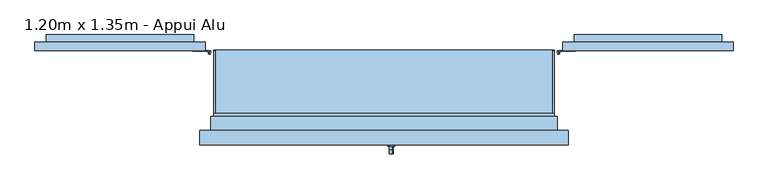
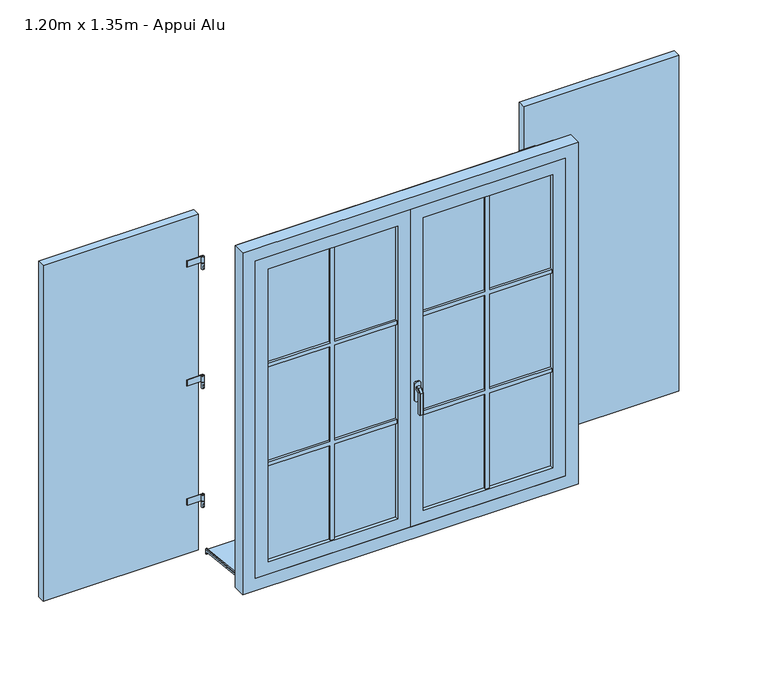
"""IFC4 building model written with IfcOpenShell, lengths in millimetres: window geometry, 2 Vantaux droits - Volets et petits bois : 1.20m x 1.35m - Appui Alu."""

from ifc_helpers import new_model, si_unit, point, frame, frame_2d, origin, place, context, project, spatial, polyline, circle_curve, trimmed, segment, composite_curve, outline, extrude, faceted_brep, source, transform, mapped, element, save
from ifc_brep_helpers import plane_surface, cylinder_surface, advanced_brep


def window_1_20m_x_1_35m_appui_alu_f21a0c15(model_context):
    return source(origin(), model_context, "Body", "SolidModel", [
        extrude(outline(polyline([(-1230.0, 173.0), (-1230.0, 203.0), (-630.0, 203.0), (-630.0, 173.0), (-1230.0, 173.0)])), frame((0.0, 0.0, 775.0), z_axis=(0.0, 0.0, 1.0), x_axis=(1.0, 0.0, 0.0)), (0.0, 0.0, 1.0), 1375.0),
        advanced_brep(
        [(-610.0, 168.0, 975.0), (-620.0, 168.0, 975.0), (-610.0, 168.0, 950.0), (-620.0, 168.0, 950.0), (-617.0, 163.4174243, 955.0), (-617.0, 163.4174243, 965.0), (-613.0, 163.4174243, 965.0), (-613.0, 163.4174243, 955.0), (-613.0, 160.0, 965.0), (-617.0, 160.0, 965.0), (-617.0, 160.0, 955.0), (-613.0, 160.0, 955.0)],
        [
            (0, 1, circle_curve(frame((-615.0, 168.0, 975.0), z_axis=(0.0, 0.0, 1.0), x_axis=(-1.0, 0.0, 0.0)), 5.0)),
            (1, 0, circle_curve(frame((-615.0, 168.0, 975.0), z_axis=(0.0, 0.0, 1.0), x_axis=(-1.0, 0.0, 0.0)), 5.0)),
            (2, 3, circle_curve(frame((-615.0, 168.0, 950.0), z_axis=(0.0, 0.0, -1.0), x_axis=(-1.0, 0.0, 0.0)), 5.0)),
            (3, 2, circle_curve(frame((-615.0, 168.0, 950.0), z_axis=(0.0, 0.0, -1.0), x_axis=(-1.0, 0.0, 0.0)), 5.0)),
            (1, 3),
            (2, 0),
            (4, 5),
            (5, 6, circle_curve(frame((-615.0, 168.0, 965.0), z_axis=(0.0, 0.0, 1.0), x_axis=(-1.0, 0.0, 0.0)), 5.0)),
            (6, 7),
            (7, 4, circle_curve(frame((-615.0, 168.0, 955.0), z_axis=(0.0, 0.0, -1.0), x_axis=(-1.0, 0.0, 0.0)), 5.0)),
            (8, 6),
            (5, 9),
            (9, 8),
            (10, 4),
            (7, 11),
            (11, 10),
            (10, 9),
            (8, 11),
        ],
        [
            plane_surface(frame((-620.0, 168.0, 975.0), z_axis=(0.0, 0.0, 1.0), x_axis=(0.0, 1.0, 0.0))),
            plane_surface(frame((-620.0, 168.0, 950.0), z_axis=(0.0, 0.0, -1.0), x_axis=(0.0, -1.0, 0.0))),
            cylinder_surface(frame((-615.0, 168.0, 950.0), z_axis=(0.0, 0.0, 1.0), x_axis=(-1.0, 0.0, 0.0)), 5.0),
            plane_surface(frame((-617.0, 160.0, 965.0), z_axis=(0.0, 0.0, 1.0), x_axis=(0.0, 1.0, 0.0))),
            plane_surface(frame((-617.0, 160.0, 955.0), z_axis=(0.0, 0.0, -1.0), x_axis=(0.0, -1.0, 0.0))),
            plane_surface(frame((-617.0, 160.0, 965.0), z_axis=(-1.0, 0.0, 0.0), x_axis=(0.0, 0.0, -1.0))),
            plane_surface(frame((-613.0, 165.0, 965.0), z_axis=(1.0, 0.0, 0.0), x_axis=(0.0, 0.0, -1.0))),
            plane_surface(frame((-613.0, 160.0, 965.0), z_axis=(0.0, -1.0, 0.0), x_axis=(0.0, 0.0, -1.0))),
        ],
        [
            (0, [[1, 2]]),
            (1, [[3, 4]]),
            (2, [[5, -3, 6, -2], [7, 8, 9, 10]]),
            (2, [[-6, -4, -5, -1]]),
            (3, [[11, -8, 12, 13]]),
            (4, [[14, -10, 15, 16]]),
            (5, [[-12, -7, -14, 17]]),
            (6, [[-15, -9, -11, 18]]),
            (7, [[-17, -16, -18, -13]]),
        ],
    ),
        extrude(outline(composite_curve([segment(trimmed(circle_curve(frame_2d((-615.0, 168.0)), 5.0), [point((-615.0, 173.0))], [point((-620.0, 168.0))], False, "CARTESIAN"), True, "CONTINUOUS"), segment(polyline([(-620.0, 168.0), (-617.5, 168.0)]), True, "CONTINUOUS"), segment(trimmed(circle_curve(frame_2d((-615.0, 168.0)), 2.5), [point((-617.5, 168.0))], [point((-615.0, 170.5))], True, "CARTESIAN"), True, "CONTINUOUS"), segment(polyline([(-615.0, 170.5), (-674.3092325, 170.5), (-674.3092325, 173.0), (-615.0, 173.0)]), True, "CONTINUOUS")], self_intersect=False)), frame((0.0, 0.0, 975.0), z_axis=(0.0, 0.0, 1.0), x_axis=(1.0, 0.0, 0.0)), (0.0, 0.0, 1.0), 25.0),
        extrude(outline(composite_curve([segment(trimmed(circle_curve(frame_2d((-615.0, 168.0)), 2.5), [point((-612.5, 168.0))], [point((-617.5, 168.0))], False, "CARTESIAN"), True, "CONTINUOUS"), segment(trimmed(circle_curve(frame_2d((-615.0, 168.0)), 2.5), [point((-617.5, 168.0))], [point((-612.5, 168.0))], False, "CARTESIAN"), True, "CONTINUOUS")], self_intersect=False)), frame((0.0, 0.0, 975.0), z_axis=(0.0, 0.0, 1.0), x_axis=(1.0, 0.0, 0.0)), (0.0, 0.0, 1.0), 25.0),
        advanced_brep(
        [(-610.0, 168.0, 1950.0), (-620.0, 168.0, 1950.0), (-610.0, 168.0, 1925.0), (-620.0, 168.0, 1925.0), (-613.0, 163.4174243, 1940.0), (-613.0, 163.4174243, 1930.0), (-617.0, 163.4174243, 1930.0), (-617.0, 163.4174243, 1940.0), (-613.0, 160.0, 1940.0), (-617.0, 160.0, 1940.0), (-613.0, 160.0, 1930.0), (-617.0, 160.0, 1930.0)],
        [
            (0, 1, circle_curve(frame((-615.0, 168.0, 1950.0), z_axis=(0.0, 0.0, 1.0), x_axis=(-1.0, 0.0, 0.0)), 5.0)),
            (1, 0, circle_curve(frame((-615.0, 168.0, 1950.0), z_axis=(0.0, 0.0, 1.0), x_axis=(-1.0, 0.0, 0.0)), 5.0)),
            (2, 3, circle_curve(frame((-615.0, 168.0, 1925.0), z_axis=(0.0, 0.0, -1.0), x_axis=(-1.0, 0.0, 0.0)), 5.0)),
            (3, 2, circle_curve(frame((-615.0, 168.0, 1925.0), z_axis=(0.0, 0.0, -1.0), x_axis=(-1.0, 0.0, 0.0)), 5.0)),
            (1, 3),
            (2, 0),
            (4, 5),
            (5, 6, circle_curve(frame((-615.0, 168.0, 1930.0), z_axis=(0.0, 0.0, -1.0), x_axis=(-1.0, 0.0, 0.0)), 5.0)),
            (6, 7),
            (7, 4, circle_curve(frame((-615.0, 168.0, 1940.0), z_axis=(0.0, 0.0, 1.0), x_axis=(-1.0, 0.0, 0.0)), 5.0)),
            (8, 4),
            (7, 9),
            (9, 8),
            (10, 11),
            (11, 6),
            (5, 10),
            (9, 11),
            (10, 8),
        ],
        [
            plane_surface(frame((-620.0, 168.0, 1950.0), z_axis=(0.0, 0.0, 1.0), x_axis=(0.0, 1.0, 0.0))),
            plane_surface(frame((-620.0, 168.0, 1925.0), z_axis=(0.0, 0.0, -1.0), x_axis=(0.0, -1.0, 0.0))),
            cylinder_surface(frame((-615.0, 168.0, 1925.0), z_axis=(0.0, 0.0, 1.0), x_axis=(-1.0, 0.0, 0.0)), 5.0),
            plane_surface(frame((-613.0, 160.0, 1940.0), z_axis=(0.0, 0.0, 1.0), x_axis=(-1.0, 0.0, 0.0))),
            plane_surface(frame((-613.0, 160.0, 1930.0), z_axis=(0.0, 0.0, -1.0), x_axis=(1.0, 0.0, 0.0))),
            plane_surface(frame((-613.0, 160.0, 1940.0), z_axis=(0.0, -1.0, 0.0), x_axis=(0.0, 0.0, -1.0))),
            plane_surface(frame((-617.0, 160.0, 1940.0), z_axis=(-1.0, 0.0, 0.0), x_axis=(0.0, 0.0, -1.0))),
            plane_surface(frame((-613.0, 163.4174243, 1940.0), z_axis=(1.0, 0.0, 0.0), x_axis=(0.0, 0.0, -1.0))),
        ],
        [
            (0, [[1, 2]]),
            (1, [[3, 4]]),
            (2, [[5, -3, 6, -2], [7, 8, 9, 10]]),
            (2, [[-6, -4, -5, -1]]),
            (3, [[11, -10, 12, 13]]),
            (4, [[14, 15, -8, 16]]),
            (5, [[17, -14, 18, -13]]),
            (6, [[-9, -15, -17, -12]]),
            (7, [[-18, -16, -7, -11]]),
        ],
    ),
        extrude(outline(polyline([(-613.0, 160.0), (-617.0, 160.0), (-617.0, 163.4174243), (-613.0, 163.4174243), (-613.0, 160.0)])), frame((0.0, 0.0, 1442.5), z_axis=(0.0, 0.0, 1.0), x_axis=(1.0, 0.0, 0.0)), (0.0, 0.0, 1.0), 10.0),
        extrude(outline(composite_curve([segment(trimmed(circle_curve(frame_2d((-615.0, 168.0)), 5.0), [point((-615.0, 173.0))], [point((-620.0, 168.0))], False, "CARTESIAN"), True, "CONTINUOUS"), segment(polyline([(-620.0, 168.0), (-617.5, 168.0)]), True, "CONTINUOUS"), segment(trimmed(circle_curve(frame_2d((-615.0, 168.0)), 2.5), [point((-617.5, 168.0))], [point((-612.5, 168.0))], True, "CARTESIAN"), True, "CONTINUOUS"), segment(trimmed(circle_curve(frame_2d((-615.0, 168.0)), 2.5), [point((-612.5, 168.0))], [point((-615.0, 170.5))], True, "CARTESIAN"), True, "CONTINUOUS"), segment(polyline([(-615.0, 170.5), (-674.3092325, 170.5), (-674.3092325, 173.0), (-615.0, 173.0)]), True, "CONTINUOUS")], self_intersect=False)), frame((0.0, 0.0, 1462.5), z_axis=(0.0, 0.0, 1.0), x_axis=(1.0, 0.0, 0.0)), (0.0, 0.0, 1.0), 25.0),
        extrude(outline(composite_curve([segment(trimmed(circle_curve(frame_2d((-615.0, 168.0)), 2.5), [point((-612.5, 168.0))], [point((-617.5, 168.0))], False, "CARTESIAN"), True, "CONTINUOUS"), segment(trimmed(circle_curve(frame_2d((-615.0, 168.0)), 2.5), [point((-617.5, 168.0))], [point((-612.5, 168.0))], False, "CARTESIAN"), True, "CONTINUOUS")], self_intersect=False)), frame((0.0, 0.0, 1462.5), z_axis=(0.0, 0.0, 1.0), x_axis=(1.0, 0.0, 0.0)), (0.0, 0.0, 1.0), 25.0),
        extrude(outline(composite_curve([segment(trimmed(circle_curve(frame_2d((-615.0, 168.0)), 5.0), [point((-610.0, 168.0))], [point((-620.0, 168.0))], False, "CARTESIAN"), True, "CONTINUOUS"), segment(trimmed(circle_curve(frame_2d((-615.0, 168.0)), 5.0), [point((-620.0, 168.0))], [point((-610.0, 168.0))], False, "CARTESIAN"), True, "CONTINUOUS")], self_intersect=False)), frame((0.0, 0.0, 1437.5), z_axis=(0.0, 0.0, 1.0), x_axis=(1.0, 0.0, 0.0)), (0.0, 0.0, 1.0), 25.0),
        extrude(outline(composite_curve([segment(trimmed(circle_curve(frame_2d((-615.0, 168.0)), 5.0), [point((-615.0, 173.0))], [point((-620.0, 168.0))], False, "CARTESIAN"), True, "CONTINUOUS"), segment(polyline([(-620.0, 168.0), (-617.5, 168.0)]), True, "CONTINUOUS"), segment(trimmed(circle_curve(frame_2d((-615.0, 168.0)), 2.5), [point((-617.5, 168.0))], [point((-615.0, 170.5))], True, "CARTESIAN"), True, "CONTINUOUS"), segment(polyline([(-615.0, 170.5), (-674.3092325, 170.5), (-674.3092325, 173.0), (-615.0, 173.0)]), True, "CONTINUOUS")], self_intersect=False)), frame((0.0, 0.0, 1950.0), z_axis=(0.0, 0.0, 1.0), x_axis=(1.0, 0.0, 0.0)), (0.0, 0.0, 1.0), 25.0),
        extrude(outline(composite_curve([segment(trimmed(circle_curve(frame_2d((-615.0, 168.0)), 2.5), [point((-612.5, 168.0))], [point((-617.5, 168.0))], False, "CARTESIAN"), True, "CONTINUOUS"), segment(trimmed(circle_curve(frame_2d((-615.0, 168.0)), 2.5), [point((-617.5, 168.0))], [point((-612.5, 168.0))], False, "CARTESIAN"), True, "CONTINUOUS")], self_intersect=False)), frame((0.0, 0.0, 1950.0), z_axis=(0.0, 0.0, 1.0), x_axis=(1.0, 0.0, 0.0)), (0.0, 0.0, 1.0), 25.0),
        extrude(outline(polyline([(1910.0, -1190.0), (1015.0, -758.801371), (1015.0, -670.0007252), (1910.0, -1101.1993542), (1910.0, -1190.0)])), frame((0.0, 203.0, 0.0), z_axis=(0.0, 1.0, 0.0), x_axis=(0.0, 0.0, 1.0)), (0.0, 0.0, 1.0), 25.0),
        extrude(outline(polyline([(-670.0, 228.0), (-670.0, 203.0), (-1190.0, 203.0), (-1190.0, 228.0), (-670.0, 228.0)])), frame((0.0, 0.0, 1910.0), z_axis=(0.0, 0.0, 1.0), x_axis=(1.0, 0.0, 0.0)), (0.0, 0.0, 1.0), 80.0),
        extrude(outline(polyline([(-670.0, 228.0), (-670.0, 203.0), (-1190.0, 203.0), (-1190.0, 228.0), (-670.0, 228.0)])), frame((0.0, 0.0, 935.0), z_axis=(0.0, 0.0, 1.0), x_axis=(1.0, 0.0, 0.0)), (0.0, 0.0, 1.0), 80.0),
        extrude(outline(polyline([(1230.0, 173.0), (630.0, 173.0), (630.0, 203.0), (1230.0, 203.0), (1230.0, 173.0)])), frame((0.0, 0.0, 775.0), z_axis=(0.0, 0.0, 1.0), x_axis=(1.0, 0.0, 0.0)), (0.0, 0.0, 1.0), 1375.0),
        advanced_brep(
        [(610.0, 168.0, 975.0), (620.0, 168.0, 975.0), (610.0, 168.0, 950.0), (620.0, 168.0, 950.0), (617.0, 163.4174243, 955.0), (613.0, 163.4174243, 955.0), (613.0, 163.4174243, 965.0), (617.0, 163.4174243, 965.0), (613.0, 160.0, 965.0), (617.0, 160.0, 965.0), (617.0, 160.0, 955.0), (613.0, 160.0, 955.0)],
        [
            (0, 1, circle_curve(frame((615.0, 168.0, 975.0), z_axis=(0.0, 0.0, 1.0), x_axis=(1.0, 0.0, 0.0)), 5.0)),
            (1, 0, circle_curve(frame((615.0, 168.0, 975.0), z_axis=(0.0, 0.0, 1.0), x_axis=(1.0, 0.0, 0.0)), 5.0)),
            (2, 3, circle_curve(frame((615.0, 168.0, 950.0), z_axis=(0.0, 0.0, -1.0), x_axis=(1.0, 0.0, 0.0)), 5.0)),
            (3, 2, circle_curve(frame((615.0, 168.0, 950.0), z_axis=(0.0, 0.0, -1.0), x_axis=(1.0, 0.0, 0.0)), 5.0)),
            (0, 2),
            (3, 1),
            (4, 5, circle_curve(frame((615.0, 168.0, 955.0), z_axis=(0.0, 0.0, -1.0), x_axis=(1.0, 0.0, 0.0)), 5.0)),
            (5, 6),
            (6, 7, circle_curve(frame((615.0, 168.0, 965.0), z_axis=(0.0, 0.0, 1.0), x_axis=(1.0, 0.0, 0.0)), 5.0)),
            (7, 4),
            (8, 9),
            (9, 7),
            (6, 8),
            (10, 11),
            (11, 5),
            (4, 10),
            (9, 10),
            (11, 8),
        ],
        [
            plane_surface(frame((620.0, 168.0, 975.0), z_axis=(0.0, 0.0, 1.0), x_axis=(0.0, 1.0, 0.0))),
            plane_surface(frame((620.0, 168.0, 950.0), z_axis=(0.0, 0.0, -1.0), x_axis=(0.0, -1.0, 0.0))),
            cylinder_surface(frame((615.0, 168.0, 950.0), z_axis=(0.0, 0.0, 1.0), x_axis=(1.0, 0.0, 0.0)), 5.0),
            plane_surface(frame((617.0, 160.0, 965.0), z_axis=(0.0, 0.0, 1.0), x_axis=(0.0, 1.0, 0.0))),
            plane_surface(frame((617.0, 160.0, 955.0), z_axis=(0.0, 0.0, -1.0), x_axis=(0.0, -1.0, 0.0))),
            plane_surface(frame((617.0, 160.0, 965.0), z_axis=(1.0, 0.0, 0.0), x_axis=(0.0, 0.0, -1.0))),
            plane_surface(frame((613.0, 165.0, 965.0), z_axis=(-1.0, 0.0, 0.0), x_axis=(0.0, 0.0, -1.0))),
            plane_surface(frame((613.0, 160.0, 965.0), z_axis=(0.0, -1.0, 0.0), x_axis=(0.0, 0.0, -1.0))),
        ],
        [
            (0, [[1, 2]]),
            (1, [[3, 4]]),
            (2, [[-1, 5, -4, 6], [7, 8, 9, 10]]),
            (2, [[-2, -6, -3, -5]]),
            (3, [[11, 12, -9, 13]]),
            (4, [[14, 15, -7, 16]]),
            (5, [[17, -16, -10, -12]]),
            (6, [[18, -13, -8, -15]]),
            (7, [[-11, -18, -14, -17]]),
        ],
    ),
        extrude(outline(composite_curve([segment(polyline([(615.0, 173.0), (674.3092325, 173.0), (674.3092325, 170.5), (615.0, 170.5)]), True, "CONTINUOUS"), segment(trimmed(circle_curve(frame_2d((615.0, 168.0)), 2.5), [point((615.0, 170.5))], [point((617.5, 168.0))], True, "CARTESIAN"), True, "CONTINUOUS"), segment(polyline([(617.5, 168.0), (620.0, 168.0)]), True, "CONTINUOUS"), segment(trimmed(circle_curve(frame_2d((615.0, 168.0)), 5.0), [point((620.0, 168.0))], [point((615.0, 173.0))], False, "CARTESIAN"), True, "CONTINUOUS")], self_intersect=False)), frame((0.0, 0.0, 975.0), z_axis=(0.0, 0.0, 1.0), x_axis=(1.0, 0.0, 0.0)), (0.0, 0.0, 1.0), 25.0),
        extrude(outline(composite_curve([segment(trimmed(circle_curve(frame_2d((615.0, 168.0)), 2.5), [point((612.5, 168.0))], [point((617.5, 168.0))], False, "CARTESIAN"), True, "CONTINUOUS"), segment(trimmed(circle_curve(frame_2d((615.0, 168.0)), 2.5), [point((617.5, 168.0))], [point((612.5, 168.0))], False, "CARTESIAN"), True, "CONTINUOUS")], self_intersect=False)), frame((0.0, 0.0, 975.0), z_axis=(0.0, 0.0, 1.0), x_axis=(1.0, 0.0, 0.0)), (0.0, 0.0, 1.0), 25.0),
        advanced_brep(
        [(610.0, 168.0, 1950.0), (620.0, 168.0, 1950.0), (610.0, 168.0, 1925.0), (620.0, 168.0, 1925.0), (613.0, 163.4174243, 1940.0), (617.0, 163.4174243, 1940.0), (617.0, 163.4174243, 1930.0), (613.0, 163.4174243, 1930.0), (613.0, 160.0, 1940.0), (617.0, 160.0, 1940.0), (613.0, 160.0, 1930.0), (617.0, 160.0, 1930.0)],
        [
            (0, 1, circle_curve(frame((615.0, 168.0, 1950.0), z_axis=(0.0, 0.0, 1.0), x_axis=(1.0, 0.0, 0.0)), 5.0)),
            (1, 0, circle_curve(frame((615.0, 168.0, 1950.0), z_axis=(0.0, 0.0, 1.0), x_axis=(1.0, 0.0, 0.0)), 5.0)),
            (2, 3, circle_curve(frame((615.0, 168.0, 1925.0), z_axis=(0.0, 0.0, -1.0), x_axis=(1.0, 0.0, 0.0)), 5.0)),
            (3, 2, circle_curve(frame((615.0, 168.0, 1925.0), z_axis=(0.0, 0.0, -1.0), x_axis=(1.0, 0.0, 0.0)), 5.0)),
            (0, 2),
            (3, 1),
            (4, 5, circle_curve(frame((615.0, 168.0, 1940.0), z_axis=(0.0, 0.0, 1.0), x_axis=(1.0, 0.0, 0.0)), 5.0)),
            (5, 6),
            (6, 7, circle_curve(frame((615.0, 168.0, 1930.0), z_axis=(0.0, 0.0, -1.0), x_axis=(1.0, 0.0, 0.0)), 5.0)),
            (7, 4),
            (8, 9),
            (9, 5),
            (4, 8),
            (10, 7),
            (6, 11),
            (11, 10),
            (8, 10),
            (11, 9),
        ],
        [
            plane_surface(frame((620.0, 168.0, 1950.0), z_axis=(0.0, 0.0, 1.0), x_axis=(0.0, 1.0, 0.0))),
            plane_surface(frame((620.0, 168.0, 1925.0), z_axis=(0.0, 0.0, -1.0), x_axis=(0.0, -1.0, 0.0))),
            cylinder_surface(frame((615.0, 168.0, 1925.0), z_axis=(0.0, 0.0, 1.0), x_axis=(1.0, 0.0, 0.0)), 5.0),
            plane_surface(frame((613.0, 160.0, 1940.0), z_axis=(0.0, 0.0, 1.0), x_axis=(1.0, 0.0, 0.0))),
            plane_surface(frame((613.0, 160.0, 1930.0), z_axis=(0.0, 0.0, -1.0), x_axis=(-1.0, 0.0, 0.0))),
            plane_surface(frame((613.0, 160.0, 1940.0), z_axis=(0.0, -1.0, 0.0), x_axis=(0.0, 0.0, -1.0))),
            plane_surface(frame((617.0, 160.0, 1940.0), z_axis=(1.0, 0.0, 0.0), x_axis=(0.0, 0.0, -1.0))),
            plane_surface(frame((613.0, 163.4174243, 1940.0), z_axis=(-1.0, 0.0, 0.0), x_axis=(0.0, 0.0, -1.0))),
        ],
        [
            (0, [[1, 2]]),
            (1, [[3, 4]]),
            (2, [[-1, 5, -4, 6], [7, 8, 9, 10]]),
            (2, [[-2, -6, -3, -5]]),
            (3, [[11, 12, -7, 13]]),
            (4, [[14, -9, 15, 16]]),
            (5, [[-11, 17, -16, 18]]),
            (6, [[-12, -18, -15, -8]]),
            (7, [[-13, -10, -14, -17]]),
        ],
    ),
        extrude(outline(polyline([(613.0, 160.0), (613.0, 163.4174243), (617.0, 163.4174243), (617.0, 160.0), (613.0, 160.0)])), frame((0.0, 0.0, 1442.5), z_axis=(0.0, 0.0, 1.0), x_axis=(1.0, 0.0, 0.0)), (0.0, 0.0, 1.0), 10.0),
        extrude(outline(composite_curve([segment(polyline([(615.0, 173.0), (674.3092325, 173.0), (674.3092325, 170.5), (615.0, 170.5)]), True, "CONTINUOUS"), segment(trimmed(circle_curve(frame_2d((615.0, 168.0)), 2.5), [point((615.0, 170.5))], [point((612.5, 168.0))], True, "CARTESIAN"), True, "CONTINUOUS"), segment(trimmed(circle_curve(frame_2d((615.0, 168.0)), 2.5), [point((612.5, 168.0))], [point((617.5, 168.0))], True, "CARTESIAN"), True, "CONTINUOUS"), segment(polyline([(617.5, 168.0), (620.0, 168.0)]), True, "CONTINUOUS"), segment(trimmed(circle_curve(frame_2d((615.0, 168.0)), 5.0), [point((620.0, 168.0))], [point((615.0, 173.0))], False, "CARTESIAN"), True, "CONTINUOUS")], self_intersect=False)), frame((0.0, 0.0, 1462.5), z_axis=(0.0, 0.0, 1.0), x_axis=(1.0, 0.0, 0.0)), (0.0, 0.0, 1.0), 25.0),
        extrude(outline(composite_curve([segment(trimmed(circle_curve(frame_2d((615.0, 168.0)), 2.5), [point((612.5, 168.0))], [point((617.5, 168.0))], False, "CARTESIAN"), True, "CONTINUOUS"), segment(trimmed(circle_curve(frame_2d((615.0, 168.0)), 2.5), [point((617.5, 168.0))], [point((612.5, 168.0))], False, "CARTESIAN"), True, "CONTINUOUS")], self_intersect=False)), frame((0.0, 0.0, 1462.5), z_axis=(0.0, 0.0, 1.0), x_axis=(1.0, 0.0, 0.0)), (0.0, 0.0, 1.0), 25.0),
        extrude(outline(composite_curve([segment(trimmed(circle_curve(frame_2d((615.0, 168.0)), 5.0), [point((610.0, 168.0))], [point((620.0, 168.0))], False, "CARTESIAN"), True, "CONTINUOUS"), segment(trimmed(circle_curve(frame_2d((615.0, 168.0)), 5.0), [point((620.0, 168.0))], [point((610.0, 168.0))], False, "CARTESIAN"), True, "CONTINUOUS")], self_intersect=False)), frame((0.0, 0.0, 1437.5), z_axis=(0.0, 0.0, 1.0), x_axis=(1.0, 0.0, 0.0)), (0.0, 0.0, 1.0), 25.0),
        extrude(outline(composite_curve([segment(polyline([(615.0, 173.0), (674.3092325, 173.0), (674.3092325, 170.5), (615.0, 170.5)]), True, "CONTINUOUS"), segment(trimmed(circle_curve(frame_2d((615.0, 168.0)), 2.5), [point((615.0, 170.5))], [point((617.5, 168.0))], True, "CARTESIAN"), True, "CONTINUOUS"), segment(polyline([(617.5, 168.0), (620.0, 168.0)]), True, "CONTINUOUS"), segment(trimmed(circle_curve(frame_2d((615.0, 168.0)), 5.0), [point((620.0, 168.0))], [point((615.0, 173.0))], False, "CARTESIAN"), True, "CONTINUOUS")], self_intersect=False)), frame((0.0, 0.0, 1950.0), z_axis=(0.0, 0.0, 1.0), x_axis=(1.0, 0.0, 0.0)), (0.0, 0.0, 1.0), 25.0),
        extrude(outline(composite_curve([segment(trimmed(circle_curve(frame_2d((615.0, 168.0)), 2.5), [point((612.5, 168.0))], [point((617.5, 168.0))], False, "CARTESIAN"), True, "CONTINUOUS"), segment(trimmed(circle_curve(frame_2d((615.0, 168.0)), 2.5), [point((617.5, 168.0))], [point((612.5, 168.0))], False, "CARTESIAN"), True, "CONTINUOUS")], self_intersect=False)), frame((0.0, 0.0, 1950.0), z_axis=(0.0, 0.0, 1.0), x_axis=(1.0, 0.0, 0.0)), (0.0, 0.0, 1.0), 25.0),
        extrude(outline(polyline([(1910.0, 1190.0), (1910.0, 1101.1993542), (1015.0, 670.0007252), (1015.0, 758.801371), (1910.0, 1190.0)])), frame((0.0, 203.0, 0.0), z_axis=(0.0, 1.0, 0.0), x_axis=(0.0, 0.0, 1.0)), (0.0, 0.0, 1.0), 25.0),
        extrude(outline(polyline([(670.0, 228.0), (1190.0, 228.0), (1190.0, 203.0), (670.0, 203.0), (670.0, 228.0)])), frame((0.0, 0.0, 1910.0), z_axis=(0.0, 0.0, 1.0), x_axis=(1.0, 0.0, 0.0)), (0.0, 0.0, 1.0), 80.0),
        extrude(outline(polyline([(670.0, 228.0), (1190.0, 228.0), (1190.0, 203.0), (670.0, 203.0), (670.0, 228.0)])), frame((0.0, 0.0, 935.0), z_axis=(0.0, 0.0, 1.0), x_axis=(1.0, 0.0, 0.0)), (0.0, 0.0, 1.0), 80.0),
        extrude(outline(polyline([(1710.0, 550.0), (1710.0, 307.5), (2100.0, 307.5), (2100.0, 292.5), (1710.0, 292.5), (1710.0, 50.0), (1695.0, 50.0), (1695.0, 292.5), (1305.0, 292.5), (1305.0, 50.0), (1290.0, 50.0), (1290.0, 292.5), (900.0, 292.5), (900.0, 307.5), (1290.0, 307.5), (1290.0, 550.0), (1305.0, 550.0), (1305.0, 307.5), (1695.0, 307.5), (1695.0, 550.0), (1710.0, 550.0)])), frame((0.0, -134.0, 0.0), z_axis=(0.0, 1.0, 0.0), x_axis=(0.0, 0.0, 1.0)), (0.0, 0.0, 1.0), 10.0),
        extrude(outline(polyline([(1710.0, 50.0), (1695.0, 50.0), (1695.0, 292.5), (1305.0, 292.5), (1305.0, 50.0), (1290.0, 50.0), (1290.0, 292.5), (900.0, 292.5), (900.0, 307.5), (1290.0, 307.5), (1290.0, 550.0), (1305.0, 550.0), (1305.0, 307.5), (1695.0, 307.5), (1695.0, 550.0), (1710.0, 550.0), (1710.0, 307.5), (2100.0, 307.5), (2100.0, 292.5), (1710.0, 292.5), (1710.0, 50.0)])), frame((0.0, -156.0, 0.0), z_axis=(0.0, 1.0, 0.0), x_axis=(0.0, 0.0, 1.0)), (0.0, 0.0, 1.0), 10.0),
        extrude(outline(polyline([(1710.0, -50.0), (1710.0, -292.5), (2100.0, -292.5), (2100.0, -307.5), (1710.0, -307.5), (1710.0, -550.0), (1695.0, -550.0), (1695.0, -307.5), (1305.0, -307.5), (1305.0, -550.0), (1290.0, -550.0), (1290.0, -307.5), (900.0, -307.5), (900.0, -292.5), (1290.0, -292.5), (1290.0, -50.0), (1305.0, -50.0), (1305.0, -292.5), (1695.0, -292.5), (1695.0, -50.0), (1710.0, -50.0)])), frame((0.0, -134.0, 0.0), z_axis=(0.0, 1.0, 0.0), x_axis=(0.0, 0.0, 1.0)), (0.0, 0.0, 1.0), 10.0),
        extrude(outline(polyline([(1710.0, -550.0), (1695.0, -550.0), (1695.0, -307.5), (1305.0, -307.5), (1305.0, -550.0), (1290.0, -550.0), (1290.0, -307.5), (900.0, -307.5), (900.0, -292.5), (1290.0, -292.5), (1290.0, -50.0), (1305.0, -50.0), (1305.0, -292.5), (1695.0, -292.5), (1695.0, -50.0), (1710.0, -50.0), (1710.0, -292.5), (2100.0, -292.5), (2100.0, -307.5), (1710.0, -307.5), (1710.0, -550.0)])), frame((0.0, -156.0, 0.0), z_axis=(0.0, 1.0, 0.0), x_axis=(0.0, 0.0, 1.0)), (0.0, 0.0, 1.0), 10.0),
        faceted_brep([(30.6460097, -166.0, 1422.0339292), (32.0339292, -166.0, 1420.6460097), (32.0339292, -166.0, 1409.3323012), (30.6676988, -166.0, 1407.9660708), (19.3323012, -166.0, 1407.9660708), (17.9660708, -166.0, 1409.3323012), (17.9660708, -166.0, 1420.6460097), (19.3539903, -166.0, 1422.0339292), (30.6460097, -178.9135489, 1422.0339292), (32.0339292, -178.3386538, 1420.6460097), (32.0339292, -191.6460097, 1407.3386538), (32.0339292, -191.6460097, 1320.0), (32.0339292, -180.3323012, 1320.0), (32.0339292, -180.3323012, 1402.6523623), (32.0339292, -173.6523623, 1409.3323012), (30.6676988, -173.0864511, 1407.9660708), (19.3323012, -173.0864511, 1407.9660708), (17.9660708, -173.6523623, 1409.3323012), (17.9660708, -180.3323012, 1402.6523623), (17.9660708, -180.3323012, 1320.0), (17.9660708, -191.6460097, 1320.0), (17.9660708, -191.6460097, 1407.3386538), (17.9660708, -178.3386538, 1420.6460097), (19.3539903, -178.9135489, 1422.0339292), (30.6460097, -193.0339292, 1407.9135489), (30.6676988, -178.9660708, 1402.0864511), (19.3323012, -178.9660708, 1402.0864511), (19.3539903, -193.0339292, 1407.9135489), (30.6460097, -193.0339292, 1320.0), (19.3539903, -193.0339292, 1320.0), (19.3323012, -178.9660708, 1320.0), (30.6676988, -178.9660708, 1320.0)], [[[0, 1, 2, 3, 4, 5, 6, 7]], [[1, 0, 8, 9]], [[2, 1, 9, 10, 11, 12, 13, 14]], [[3, 2, 14, 15]], [[4, 3, 15, 16]], [[5, 4, 16, 17]], [[6, 5, 17, 18, 19, 20, 21, 22]], [[7, 6, 22, 23]], [[0, 7, 23, 8]], [[9, 8, 24, 10]], [[15, 14, 13, 25]], [[16, 15, 25, 26]], [[17, 16, 26, 18]], [[23, 22, 21, 27]], [[8, 23, 27, 24]], [[28, 29, 20, 19, 30, 31, 12, 11]], [[10, 24, 28, 11]], [[25, 13, 12, 31]], [[26, 25, 31, 30]], [[18, 26, 30, 19]], [[27, 21, 20, 29]], [[24, 27, 29, 28]]]),
        extrude(outline(polyline([(1440.0, 32.0), (1440.0, 18.0), (1435.0, 13.0), (1365.0, 13.0), (1360.0, 18.0), (1360.0, 32.0), (1365.0, 37.0), (1435.0, 37.0), (1440.0, 32.0)])), frame((0.0, -166.0, 0.0), z_axis=(0.0, 1.0, 0.0), x_axis=(0.0, 0.0, 1.0)), (0.0, 0.0, 1.0), 6.0),
        extrude(outline(polyline([(175.0, 763.4536318), (175.0, 747.8979153), (170.0, 748.4234365), (170.0, 758.7239412), (-80.0, 785.0), (-80.0, 800.0), (-75.0, 800.0), (-75.0, 789.7296906), (175.0, 763.4536318)])), frame((-600.0, 0.0, 0.0), z_axis=(1.0, 0.0, 0.0), x_axis=(0.0, 1.0, 0.0)), (0.0, 0.0, 1.0), 1200.0),
        extrude(outline(composite_curve([segment(polyline([(175.0, 763.4536318), (-75.0, 789.7296906), (-75.0, 794.757232), (171.4181139, 768.8576446)]), True, "CONTINUOUS"), segment(trimmed(circle_curve(frame_2d((171.0, 764.879557)), 4.0), [point((171.4181139, 768.8576446))], [point((175.0, 764.879557))], False, "CARTESIAN"), True, "CONTINUOUS"), segment(polyline([(175.0, 764.879557), (175.0, 763.4536318)]), True, "CONTINUOUS")], self_intersect=False)), frame((-600.0, 0.0, 0.0), z_axis=(1.0, 0.0, 0.0), x_axis=(0.0, 1.0, 0.0)), (0.0, 0.0, 1.0), 5.0),
        extrude(outline(composite_curve([segment(polyline([(175.0, 763.4536318), (-75.0, 789.7296906), (-75.0, 794.757232), (171.4181139, 768.8576446)]), True, "CONTINUOUS"), segment(trimmed(circle_curve(frame_2d((171.0, 764.879557)), 4.0), [point((171.4181139, 768.8576446))], [point((175.0, 764.879557))], False, "CARTESIAN"), True, "CONTINUOUS"), segment(polyline([(175.0, 764.879557), (175.0, 763.4536318)]), True, "CONTINUOUS")], self_intersect=False)), frame((595.0, 0.0, 0.0), z_axis=(1.0, 0.0, 0.0), x_axis=(0.0, 1.0, 0.0)), (0.0, 0.0, 1.0), 5.0),
        extrude(outline(polyline([(850.0, 0.0), (2150.0, 0.0), (2150.0, -600.0), (850.0, -600.0), (850.0, 0.0)]), holes=[polyline([(900.0, -550.0), (2100.0, -550.0), (2100.0, -50.0), (900.0, -50.0), (900.0, -550.0)])]), frame((0.0, -160.0, 0.0), z_axis=(0.0, 1.0, 0.0), x_axis=(0.0, 0.0, 1.0)), (0.0, 0.0, 1.0), 40.0),
        extrude(outline(polyline([(50.0, -134.0), (550.0, -134.0), (550.0, -146.0), (50.0, -146.0), (50.0, -134.0)])), frame((0.0, 0.0, 900.0), z_axis=(0.0, 0.0, 1.0), x_axis=(1.0, 0.0, 0.0)), (0.0, 0.0, 1.0), 1200.0),
        extrude(outline(polyline([(-550.0, -134.0), (-50.0, -134.0), (-50.0, -146.0), (-550.0, -146.0), (-550.0, -134.0)])), frame((0.0, 0.0, 900.0), z_axis=(0.0, 0.0, 1.0), x_axis=(1.0, 0.0, 0.0)), (0.0, 0.0, 1.0), 1200.0),
        extrude(outline(polyline([(850.0, 600.0), (2150.0, 600.0), (2150.0, 0.0), (850.0, 0.0), (850.0, 600.0)]), holes=[polyline([(900.0, 50.0), (2100.0, 50.0), (2100.0, 550.0), (900.0, 550.0), (900.0, 50.0)])]), frame((0.0, -160.0, 0.0), z_axis=(0.0, 1.0, 0.0), x_axis=(0.0, 0.0, 1.0)), (0.0, 0.0, 1.0), 40.0),
        faceted_brep([(-650.0, -160.0, 800.0), (-650.0, -110.0, 800.0), (-600.0, -110.0, 800.0), (-600.0, -60.0, 800.0), (600.0, -60.0, 800.0), (600.0, -110.0, 800.0), (650.0, -110.0, 800.0), (650.0, -160.0, 800.0), (-650.0, -160.0, 2200.0), (-650.0, -110.0, 2200.0), (650.0, -110.0, 2200.0), (600.0, -110.0, 839.3761425), (-600.0, -110.0, 839.3761425), (-585.0, -110.0, 2135.0), (-585.0, -110.0, 865.0), (585.0, -110.0, 865.0), (585.0, -110.0, 2135.0), (-600.0, -50.0, 823.2991909), (-600.0, -50.0, 795.0), (-600.0, -60.0, 795.0), (600.0, -60.0, 795.0), (600.0, -50.0, 795.0), (600.0, -50.0, 823.2991909), (650.0, -160.0, 2200.0), (600.0, -160.0, 2150.0), (600.0, -160.0, 850.0), (-600.0, -160.0, 850.0), (-600.0, -160.0, 2150.0), (-585.0, -120.0, 2135.0), (-585.0, -120.0, 865.0), (585.0, -120.0, 865.0), (585.0, -120.0, 2135.0), (600.0, -120.0, 2150.0), (-600.0, -120.0, 2150.0), (-600.0, -120.0, 850.0), (600.0, -120.0, 850.0)], [[[0, 1, 2, 3, 4, 5, 6, 7]], [[1, 0, 8, 9]], [[1, 9, 10, 6, 5, 11, 12, 2], [13, 14, 15, 16]], [[12, 17, 18, 19, 3, 2]], [[3, 19, 20, 4]], [[4, 20, 21, 22, 11, 5]], [[6, 10, 23, 7]], [[0, 7, 23, 8], [24, 25, 26, 27]], [[13, 28, 29, 14]], [[29, 30, 15, 14]], [[31, 16, 15, 30]], [[17, 12, 11, 22]], [[32, 33, 34, 35], [28, 31, 30, 29]], [[34, 33, 27, 26]], [[26, 25, 35, 34]], [[24, 32, 35, 25]], [[18, 17, 22, 21]], [[19, 18, 21, 20]], [[13, 16, 31, 28]], [[33, 32, 24, 27]], [[10, 9, 8, 23]]]),
        extrude(outline(polyline([(800.0, -610.0), (800.0, -600.0), (2150.0, -600.0), (2150.0, 600.0), (800.0, 600.0), (800.0, 610.0), (2160.0, 610.0), (2160.0, -610.0), (800.0, -610.0)])), frame((0.0, -110.0, 0.0), z_axis=(0.0, 1.0, 0.0), x_axis=(0.0, 0.0, 1.0)), (0.0, 0.0, 1.0), 50.0),
        extrude(outline(polyline([(20.0, -112.0), (20.0, -120.0), (-20.0, -120.0), (-20.0, -112.0), (20.0, -112.0)])), frame((0.0, 0.0, 865.0), z_axis=(0.0, 0.0, 1.0), x_axis=(1.0, 0.0, 0.0)), (0.0, 0.0, 1.0), 1270.0),
    ])


if __name__ == "__main__":
    model = new_model("IFC4")
    model_context = context("Model", 3, world=origin())
    ifc_project = project(units=[si_unit("LENGTHUNIT", "METRE", prefix="MILLI")], contexts=[model_context])
    site = spatial("IfcSite", under=ifc_project)
    building = spatial("IfcBuilding", under=site)
    placement = place(None, origin())
    window_1_20m_x_1_35m_appui_alu_shape = window_1_20m_x_1_35m_appui_alu_f21a0c15(model_context)
    element("IfcWindow", 1, ObjectType="2 Vantaux droits - Volets et petits bois : 1.20m x 1.35m - Appui Alu", at=placement, inside=building, context=model_context, shape_type="MappedRepresentation", body=[
        mapped(window_1_20m_x_1_35m_appui_alu_shape, transform((0.0, 0.0, 0.0), x_axis=(1.0, 0.0, 0.0), y_axis=(0.0, 1.0, 0.0), z_axis=(0.0, 0.0, 1.0))),
    ])
    save(model, "model.ifc")
